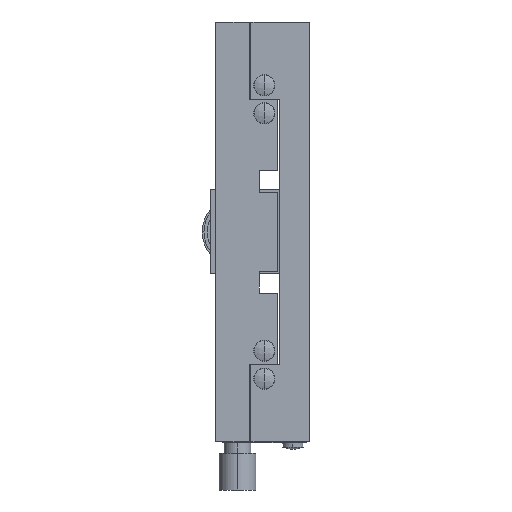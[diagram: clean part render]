
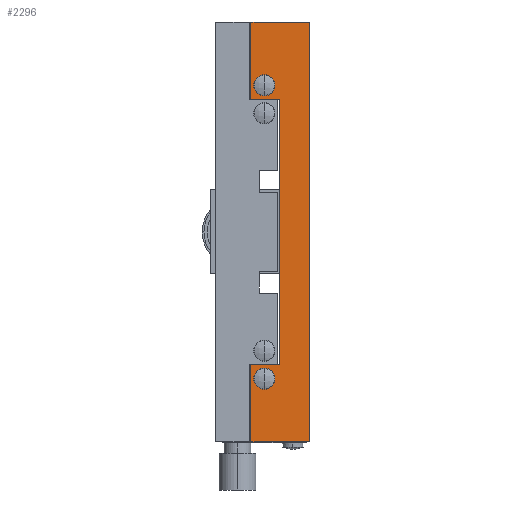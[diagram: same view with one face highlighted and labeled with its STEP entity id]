
A CAD part, left-side view. The second image highlights one B-rep face of the part: STEP entity #2296.
In plain terms, the highlighted planar face has unit normal (-1, 0, 0).
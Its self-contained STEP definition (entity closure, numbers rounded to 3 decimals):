
#2110 = EDGE_CURVE ( 'NONE', #2217, #2111, #5143, .T. ) ;
#2111 = VERTEX_POINT ( 'NONE', #5158 ) ;
#2122 = VERTEX_POINT ( 'NONE', #5169 ) ;
#2124 = EDGE_CURVE ( 'NONE', #2122, #2125, #5168, .T. ) ;
#2125 = VERTEX_POINT ( 'NONE', #5172 ) ;
#2217 = VERTEX_POINT ( 'NONE', #5569 ) ;
#2264 = EDGE_CURVE ( 'NONE', #2359, #2357, #5524, .T. ) ;
#2265 = ORIENTED_EDGE ( 'NONE', *, *, #2266, .T. ) ;
#2266 = EDGE_CURVE ( 'NONE', #2359, #2267, #5520, .T. ) ;
#2267 = VERTEX_POINT ( 'NONE', #5516 ) ;
#2268 = ORIENTED_EDGE ( 'NONE', *, *, #2269, .F. ) ;
#2269 = EDGE_CURVE ( 'NONE', #2270, #2267, #5450, .T. ) ;
#2270 = VERTEX_POINT ( 'NONE', #5446 ) ;
#2271 = ORIENTED_EDGE ( 'NONE', *, *, #2272, .T. ) ;
#2272 = EDGE_CURVE ( 'NONE', #2270, #2273, #5445, .T. ) ;
#2273 = VERTEX_POINT ( 'NONE', #5441 ) ;
#2274 = ORIENTED_EDGE ( 'NONE', *, *, #2275, .T. ) ;
#2275 = EDGE_CURVE ( 'NONE', #2273, #2276, #5440, .T. ) ;
#2276 = VERTEX_POINT ( 'NONE', #5436 ) ;
#2277 = ORIENTED_EDGE ( 'NONE', *, *, #2341, .T. ) ;
#2278 = VERTEX_POINT ( 'NONE', #5435 ) ;
#2296 = ADVANCED_FACE ( 'NONE', ( #5411, #5410, #5409 ), #5408, .T. ) ;
#2297 = EDGE_LOOP ( 'NONE', ( #2298, #2299 ) ) ;
#2298 = ORIENTED_EDGE ( 'NONE', *, *, #2515, .F. ) ;
#2299 = ORIENTED_EDGE ( 'NONE', *, *, #2124, .F. ) ;
#2300 = EDGE_LOOP ( 'NONE', ( #2301, #2358, #2265, #2268, #2271, #2274, #2277, #2342 ) ) ;
#2301 = ORIENTED_EDGE ( 'NONE', *, *, #2302, .T. ) ;
#2302 = EDGE_CURVE ( 'NONE', #2303, #2357, #5403, .T. ) ;
#2303 = VERTEX_POINT ( 'NONE', #5399 ) ;
#2341 = EDGE_CURVE ( 'NONE', #2276, #2278, #5902, .T. ) ;
#2342 = ORIENTED_EDGE ( 'NONE', *, *, #2343, .T. ) ;
#2343 = EDGE_CURVE ( 'NONE', #2278, #2303, #5898, .T. ) ;
#2344 = EDGE_LOOP ( 'NONE', ( #2373, #2374 ) ) ;
#2357 = VERTEX_POINT ( 'NONE', #5882 ) ;
#2358 = ORIENTED_EDGE ( 'NONE', *, *, #2264, .F. ) ;
#2359 = VERTEX_POINT ( 'NONE', #5881 ) ;
#2373 = ORIENTED_EDGE ( 'NONE', *, *, #2400, .F. ) ;
#2374 = ORIENTED_EDGE ( 'NONE', *, *, #2110, .F. ) ;
#2400 = EDGE_CURVE ( 'NONE', #2111, #2217, #5859, .T. ) ;
#2515 = EDGE_CURVE ( 'NONE', #2125, #2122, #6287, .T. ) ;
#5140 = DIRECTION ( 'NONE',  ( 0., 0., -1. ) ) ;
#5141 = DIRECTION ( 'NONE',  ( -1., 0., 0. ) ) ;
#5142 = AXIS2_PLACEMENT_3D ( 'NONE', #5150, #5141, #5140 ) ;
#5143 = CIRCLE ( 'NONE', #5142, 3.15 ) ;
#5150 = CARTESIAN_POINT ( 'NONE',  ( -62.5, 13.5, -43.65 ) ) ;
#5156 = AXIS2_PLACEMENT_3D ( 'NONE', #5175, #5174, #5173 ) ;
#5158 = CARTESIAN_POINT ( 'NONE',  ( -62.5, 13.5, -40.5 ) ) ;
#5168 = CIRCLE ( 'NONE', #5156, 3.15 ) ;
#5169 = CARTESIAN_POINT ( 'NONE',  ( -62.5, 13.5, 46.8 ) ) ;
#5172 = CARTESIAN_POINT ( 'NONE',  ( -62.5, 13.5, 40.5 ) ) ;
#5173 = DIRECTION ( 'NONE',  ( 0., 0., 1. ) ) ;
#5174 = DIRECTION ( 'NONE',  ( -1., 0., 0. ) ) ;
#5175 = CARTESIAN_POINT ( 'NONE',  ( -62.5, 13.5, 43.65 ) ) ;
#5399 = CARTESIAN_POINT ( 'NONE',  ( -62.5, 17.5, 62.5 ) ) ;
#5400 = DIRECTION ( 'NONE',  ( 0., 0., -1. ) ) ;
#5401 = VECTOR ( 'NONE', #5400, 1000. ) ;
#5402 = CARTESIAN_POINT ( 'NONE',  ( -62.5, 17.5, 62.5 ) ) ;
#5403 = LINE ( 'NONE', #5402, #5401 ) ;
#5404 = DIRECTION ( 'NONE',  ( 0., 0., 1. ) ) ;
#5405 = DIRECTION ( 'NONE',  ( -1., 0., 0. ) ) ;
#5406 = CARTESIAN_POINT ( 'NONE',  ( -62.5, 17.5, 48.5 ) ) ;
#5407 = AXIS2_PLACEMENT_3D ( 'NONE', #5406, #5405, #5404 ) ;
#5408 = PLANE ( 'NONE',  #5407 ) ;
#5409 = FACE_BOUND ( 'NONE', #2344, .T. ) ;
#5410 = FACE_OUTER_BOUND ( 'NONE', #2300, .T. ) ;
#5411 = FACE_BOUND ( 'NONE', #2297, .T. ) ;
#5435 = CARTESIAN_POINT ( 'NONE',  ( -62.5, 0., 62.5 ) ) ;
#5436 = CARTESIAN_POINT ( 'NONE',  ( -62.5, 0., -62.5 ) ) ;
#5437 = DIRECTION ( 'NONE',  ( 0., -1., 0. ) ) ;
#5438 = VECTOR ( 'NONE', #5437, 1000. ) ;
#5439 = CARTESIAN_POINT ( 'NONE',  ( -62.5, 0., -62.5 ) ) ;
#5440 = LINE ( 'NONE', #5439, #5438 ) ;
#5441 = CARTESIAN_POINT ( 'NONE',  ( -62.5, 17.5, -62.5 ) ) ;
#5442 = DIRECTION ( 'NONE',  ( 0., 0., -1. ) ) ;
#5443 = VECTOR ( 'NONE', #5442, 1000. ) ;
#5444 = CARTESIAN_POINT ( 'NONE',  ( -62.5, 17.5, -62.5 ) ) ;
#5445 = LINE ( 'NONE', #5444, #5443 ) ;
#5446 = CARTESIAN_POINT ( 'NONE',  ( -62.5, 17.5, -39.5 ) ) ;
#5447 = DIRECTION ( 'NONE',  ( 0., -1., 0. ) ) ;
#5448 = VECTOR ( 'NONE', #5447, 1000. ) ;
#5449 = CARTESIAN_POINT ( 'NONE',  ( -62.5, 9.5, -39.5 ) ) ;
#5450 = LINE ( 'NONE', #5449, #5448 ) ;
#5516 = CARTESIAN_POINT ( 'NONE',  ( -62.5, 9., -39.5 ) ) ;
#5517 = DIRECTION ( 'NONE',  ( 0., 0., -1. ) ) ;
#5518 = VECTOR ( 'NONE', #5517, 1000. ) ;
#5519 = CARTESIAN_POINT ( 'NONE',  ( -62.5, 9., 40. ) ) ;
#5520 = LINE ( 'NONE', #5519, #5518 ) ;
#5521 = DIRECTION ( 'NONE',  ( 0., 1., 0. ) ) ;
#5522 = VECTOR ( 'NONE', #5521, 1000. ) ;
#5523 = CARTESIAN_POINT ( 'NONE',  ( -62.5, 9.5, 39.5 ) ) ;
#5524 = LINE ( 'NONE', #5523, #5522 ) ;
#5569 = CARTESIAN_POINT ( 'NONE',  ( -62.5, 13.5, -46.8 ) ) ;
#5691 = DIRECTION ( 'NONE',  ( 0., 0., -1. ) ) ;
#5692 = DIRECTION ( 'NONE',  ( -1., 0., 0. ) ) ;
#5857 = CARTESIAN_POINT ( 'NONE',  ( -62.5, 13.5, -43.65 ) ) ;
#5858 = AXIS2_PLACEMENT_3D ( 'NONE', #5857, #5692, #5691 ) ;
#5859 = CIRCLE ( 'NONE', #5858, 3.15 ) ;
#5881 = CARTESIAN_POINT ( 'NONE',  ( -62.5, 9., 39.5 ) ) ;
#5882 = CARTESIAN_POINT ( 'NONE',  ( -62.5, 17.5, 39.5 ) ) ;
#5895 = DIRECTION ( 'NONE',  ( 0., 1., 0. ) ) ;
#5896 = VECTOR ( 'NONE', #5895, 1000. ) ;
#5897 = CARTESIAN_POINT ( 'NONE',  ( -62.5, 0., 62.5 ) ) ;
#5898 = LINE ( 'NONE', #5897, #5896 ) ;
#5899 = DIRECTION ( 'NONE',  ( 0., 0., 1. ) ) ;
#5900 = VECTOR ( 'NONE', #5899, 1000. ) ;
#5901 = CARTESIAN_POINT ( 'NONE',  ( -62.5, 0., -62.5 ) ) ;
#5902 = LINE ( 'NONE', #5901, #5900 ) ;
#6283 = DIRECTION ( 'NONE',  ( 0., 0., 1. ) ) ;
#6284 = DIRECTION ( 'NONE',  ( -1., 0., 0. ) ) ;
#6285 = AXIS2_PLACEMENT_3D ( 'NONE', #6286, #6284, #6283 ) ;
#6286 = CARTESIAN_POINT ( 'NONE',  ( -62.5, 13.5, 43.65 ) ) ;
#6287 = CIRCLE ( 'NONE', #6285, 3.15 ) ;
